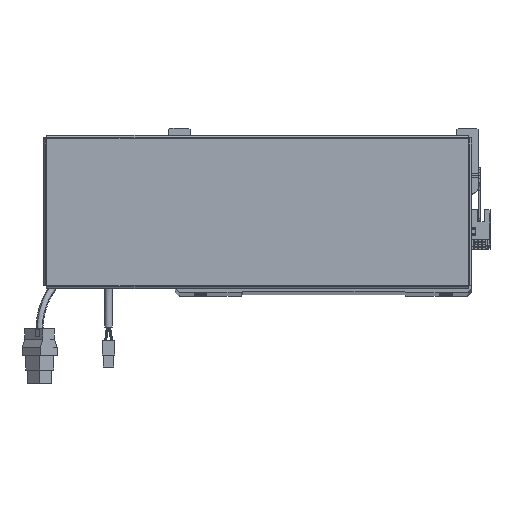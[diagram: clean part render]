
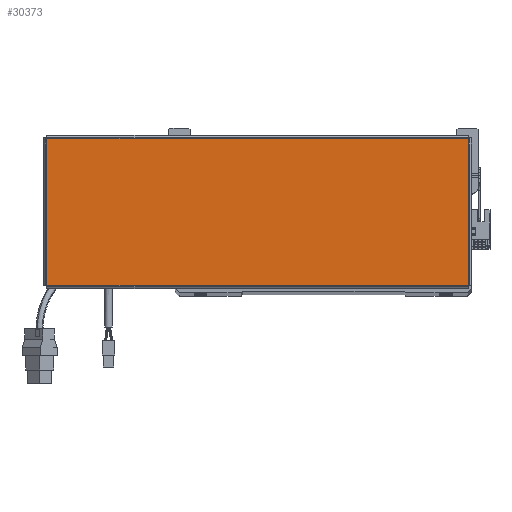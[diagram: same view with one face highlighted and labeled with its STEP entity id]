
A CAD part, top view. The second image highlights one B-rep face of the part: STEP entity #30373.
In plain terms, the highlighted planar face has unit normal (0, 0, 1).
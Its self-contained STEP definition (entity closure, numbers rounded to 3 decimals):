
#24 = VERTEX_POINT ( 'NONE', #25733 ) ;
#1380 = LINE ( 'NONE', #5534, #2278 ) ;
#2278 = VECTOR ( 'NONE', #44144, 1000. ) ;
#4837 = CARTESIAN_POINT ( 'NONE',  ( -156.543, -54.763, 0. ) ) ;
#5534 = CARTESIAN_POINT ( 'NONE',  ( -156.513, 54.793, 0. ) ) ;
#9297 = CARTESIAN_POINT ( 'NONE',  ( 156.513, -54.793, 0. ) ) ;
#9778 = CARTESIAN_POINT ( 'NONE',  ( 156.513, 54.763, 0. ) ) ;
#9869 = DIRECTION ( 'NONE',  ( -1., 0., 0. ) ) ;
#11548 = LINE ( 'NONE', #9297, #15864 ) ;
#11679 = VERTEX_POINT ( 'NONE', #9778 ) ;
#15864 = VECTOR ( 'NONE', #43498, 1000. ) ;
#18329 = AXIS2_PLACEMENT_3D ( 'NONE', #35885, #58408, #41316 ) ;
#18867 = ORIENTED_EDGE ( 'NONE', *, *, #47378, .T. ) ;
#24008 = VECTOR ( 'NONE', #9869, 1000. ) ;
#24034 = CARTESIAN_POINT ( 'NONE',  ( -156.513, 54.763, 0. ) ) ;
#25733 = CARTESIAN_POINT ( 'NONE',  ( 156.513, -54.763, 0. ) ) ;
#27019 = EDGE_CURVE ( 'NONE', #52879, #29142, #1380, .T. ) ;
#27539 = EDGE_CURVE ( 'NONE', #11679, #52879, #59912, .T. ) ;
#28887 = FACE_OUTER_BOUND ( 'NONE', #50579, .T. ) ;
#29142 = VERTEX_POINT ( 'NONE', #33426 ) ;
#30015 = EDGE_CURVE ( 'NONE', #24, #11679, #11548, .T. ) ;
#30373 = ADVANCED_FACE ( 'NONE', ( #28887 ), #37391, .T. ) ;
#33426 = CARTESIAN_POINT ( 'NONE',  ( -156.513, -54.763, 0. ) ) ;
#35885 = CARTESIAN_POINT ( 'NONE',  ( 0., 0., 0. ) ) ;
#37391 = PLANE ( 'NONE',  #18329 ) ;
#39778 = DIRECTION ( 'NONE',  ( 1., 0., 0. ) ) ;
#41316 = DIRECTION ( 'NONE',  ( 1., 0., 0. ) ) ;
#43498 = DIRECTION ( 'NONE',  ( 0., 1., 0. ) ) ;
#44144 = DIRECTION ( 'NONE',  ( 0., -1., 0. ) ) ;
#44329 = ORIENTED_EDGE ( 'NONE', *, *, #27539, .T. ) ;
#44451 = VECTOR ( 'NONE', #39778, 1000. ) ;
#47378 = EDGE_CURVE ( 'NONE', #29142, #24, #60164, .T. ) ;
#50579 = EDGE_LOOP ( 'NONE', ( #18867, #69983, #44329, #60729 ) ) ;
#52879 = VERTEX_POINT ( 'NONE', #24034 ) ;
#58408 = DIRECTION ( 'NONE',  ( 0., 0., 1. ) ) ;
#59912 = LINE ( 'NONE', #71634, #24008 ) ;
#60164 = LINE ( 'NONE', #4837, #44451 ) ;
#60729 = ORIENTED_EDGE ( 'NONE', *, *, #27019, .T. ) ;
#69983 = ORIENTED_EDGE ( 'NONE', *, *, #30015, .T. ) ;
#71634 = CARTESIAN_POINT ( 'NONE',  ( 156.543, 54.763, 0. ) ) ;
